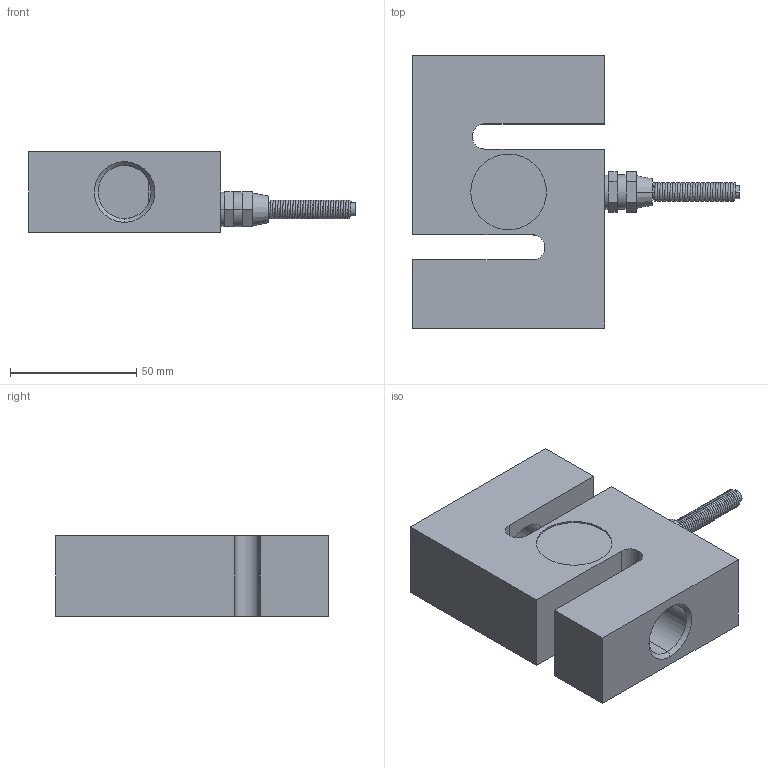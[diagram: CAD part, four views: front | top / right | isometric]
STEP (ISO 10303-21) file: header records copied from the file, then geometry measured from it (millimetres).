
FILE_DESCRIPTION (( 'STEP AP214' ), '1' );
FILE_NAME ('3D_KM1502-50KN.STEP', '2014-01-23T14:55:10', ( '' ), ( '' ), 'SwSTEP 2.0', 'SolidWorks 2012', '' );
FILE_SCHEMA (( 'AUTOMOTIVE_DESIGN' ));
Length unit declared in the file: millimetre
Products named in the file (1): 3D_KM1502-50KN
Bounding box: 129.7 x 108 x 31.8 mm (x, y, z)
Volume: 213108.1 mm3; surface area: 37988.2 mm2
Topology: 2 solids, 2 shells, 69 faces, 167 edges, 106 vertices
Faces by surface type: plane 44, cylinder 17, cone 6, bspline 2
Entity records: 10395 total; most frequent: CARTESIAN_POINT 8637, DIRECTION 359, ORIENTED_EDGE 334, EDGE_CURVE 167, AXIS2_PLACEMENT_3D 128, VERTEX_POINT 106, LINE 103, VECTOR 103
